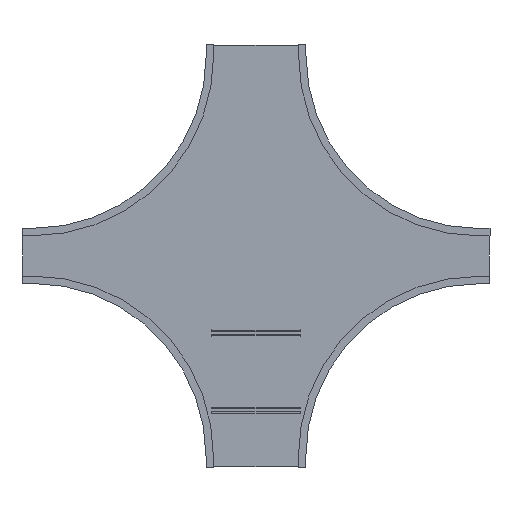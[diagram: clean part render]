
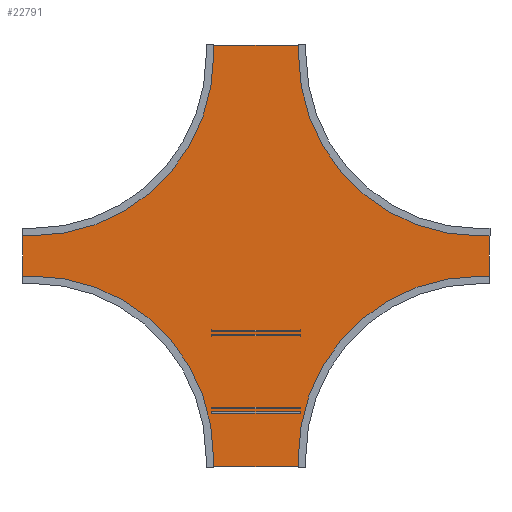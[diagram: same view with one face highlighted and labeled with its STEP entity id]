
A CAD part, front view. The second image highlights one B-rep face of the part: STEP entity #22791.
In plain terms, the highlighted planar face has unit normal (0, -1, 0).
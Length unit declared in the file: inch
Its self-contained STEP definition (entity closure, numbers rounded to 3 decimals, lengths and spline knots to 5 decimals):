
#22488=DIRECTION('',(0.,0.,1.));
#22489=VECTOR('',#22488,11.875);
#22490=CARTESIAN_POINT('',(-62.875,0.,-5.9375));
#22491=LINE('',#22490,#22489);
#22492=DIRECTION('',(1.,0.,0.));
#22493=VECTOR('',#22492,2.785);
#22494=CARTESIAN_POINT('',(-62.875,0.,5.9375));
#22495=LINE('',#22494,#22493);
#22496=CARTESIAN_POINT('',(-60.09,0.,54.09));
#22497=DIRECTION('',(0.,-1.,0.));
#22498=DIRECTION('',(0.,0.,-1.));
#22499=AXIS2_PLACEMENT_3D('',#22496,#22497,#22498);
#22501=DIRECTION('',(0.,0.,1.));
#22502=VECTOR('',#22501,2.785);
#22503=CARTESIAN_POINT('',(-11.9375,0.,54.09));
#22504=LINE('',#22503,#22502);
#22505=DIRECTION('',(1.,0.,0.));
#22506=VECTOR('',#22505,23.875);
#22507=CARTESIAN_POINT('',(-11.9375,0.,56.875));
#22508=LINE('',#22507,#22506);
#22509=DIRECTION('',(0.,0.,-1.));
#22510=VECTOR('',#22509,2.785);
#22511=CARTESIAN_POINT('',(11.9375,0.,56.875));
#22512=LINE('',#22511,#22510);
#22513=CARTESIAN_POINT('',(60.09,0.,54.09));
#22514=DIRECTION('',(0.,-1.,0.));
#22515=DIRECTION('',(-1.,0.,0.));
#22516=AXIS2_PLACEMENT_3D('',#22513,#22514,#22515);
#22518=DIRECTION('',(1.,0.,0.));
#22519=VECTOR('',#22518,2.785);
#22520=CARTESIAN_POINT('',(60.09,0.,5.9375));
#22521=LINE('',#22520,#22519);
#22522=DIRECTION('',(0.,0.,-1.));
#22523=VECTOR('',#22522,11.875);
#22524=CARTESIAN_POINT('',(62.875,0.,5.9375));
#22525=LINE('',#22524,#22523);
#22526=DIRECTION('',(-1.,0.,0.));
#22527=VECTOR('',#22526,2.785);
#22528=CARTESIAN_POINT('',(62.875,0.,-5.9375));
#22529=LINE('',#22528,#22527);
#22530=CARTESIAN_POINT('',(60.09,0.,-54.09));
#22531=DIRECTION('',(0.,-1.,0.));
#22532=DIRECTION('',(0.,0.,1.));
#22533=AXIS2_PLACEMENT_3D('',#22530,#22531,#22532);
#22535=DIRECTION('',(0.,0.,-1.));
#22536=VECTOR('',#22535,2.785);
#22537=CARTESIAN_POINT('',(11.9375,0.,-54.09));
#22538=LINE('',#22537,#22536);
#22539=DIRECTION('',(-1.,0.,0.));
#22540=VECTOR('',#22539,23.875);
#22541=CARTESIAN_POINT('',(11.9375,0.,-56.875));
#22542=LINE('',#22541,#22540);
#22543=DIRECTION('',(0.,0.,1.));
#22544=VECTOR('',#22543,2.785);
#22545=CARTESIAN_POINT('',(-11.9375,0.,-56.875));
#22546=LINE('',#22545,#22544);
#22547=CARTESIAN_POINT('',(-60.09,0.,-54.09));
#22548=DIRECTION('',(0.,-1.,0.));
#22549=DIRECTION('',(1.,0.,0.));
#22550=AXIS2_PLACEMENT_3D('',#22547,#22548,#22549);
#22552=DIRECTION('',(-1.,0.,0.));
#22553=VECTOR('',#22552,2.785);
#22554=CARTESIAN_POINT('',(-60.09,0.,-5.9375));
#22555=LINE('',#22554,#22553);
#22688=CARTESIAN_POINT('',(-62.875,0.,-5.9375));
#22689=CARTESIAN_POINT('',(-62.875,0.,5.9375));
#22690=VERTEX_POINT('',#22688);
#22691=VERTEX_POINT('',#22689);
#22692=CARTESIAN_POINT('',(-60.09,0.,5.9375));
#22693=VERTEX_POINT('',#22692);
#22694=CARTESIAN_POINT('',(-11.9375,0.,54.09));
#22695=VERTEX_POINT('',#22694);
#22696=CARTESIAN_POINT('',(-11.9375,0.,56.875));
#22697=VERTEX_POINT('',#22696);
#22698=CARTESIAN_POINT('',(11.9375,0.,56.875));
#22699=VERTEX_POINT('',#22698);
#22700=CARTESIAN_POINT('',(11.9375,0.,54.09));
#22701=VERTEX_POINT('',#22700);
#22702=CARTESIAN_POINT('',(60.09,0.,5.9375));
#22703=VERTEX_POINT('',#22702);
#22704=CARTESIAN_POINT('',(62.875,0.,5.9375));
#22705=VERTEX_POINT('',#22704);
#22706=CARTESIAN_POINT('',(62.875,0.,-5.9375));
#22707=VERTEX_POINT('',#22706);
#22708=CARTESIAN_POINT('',(60.09,0.,-5.9375));
#22709=VERTEX_POINT('',#22708);
#22710=CARTESIAN_POINT('',(11.9375,0.,-54.09));
#22711=VERTEX_POINT('',#22710);
#22712=CARTESIAN_POINT('',(11.9375,0.,-56.875));
#22713=VERTEX_POINT('',#22712);
#22714=CARTESIAN_POINT('',(-11.9375,0.,-56.875));
#22715=VERTEX_POINT('',#22714);
#22716=CARTESIAN_POINT('',(-11.9375,0.,-54.09));
#22717=VERTEX_POINT('',#22716);
#22718=CARTESIAN_POINT('',(-60.09,0.,-5.9375));
#22719=VERTEX_POINT('',#22718);
#22752=CARTESIAN_POINT('',(0.,0.,0.));
#22753=DIRECTION('',(0.,1.,0.));
#22754=DIRECTION('',(1.,0.,0.));
#22755=AXIS2_PLACEMENT_3D('',#22752,#22753,#22754);
#22756=PLANE('',#22755);
#22758=ORIENTED_EDGE('',*,*,#22757,.T.);
#22760=ORIENTED_EDGE('',*,*,#22759,.T.);
#22762=ORIENTED_EDGE('',*,*,#22761,.T.);
#22764=ORIENTED_EDGE('',*,*,#22763,.T.);
#22766=ORIENTED_EDGE('',*,*,#22765,.T.);
#22768=ORIENTED_EDGE('',*,*,#22767,.T.);
#22770=ORIENTED_EDGE('',*,*,#22769,.T.);
#22772=ORIENTED_EDGE('',*,*,#22771,.T.);
#22774=ORIENTED_EDGE('',*,*,#22773,.T.);
#22776=ORIENTED_EDGE('',*,*,#22775,.T.);
#22778=ORIENTED_EDGE('',*,*,#22777,.T.);
#22780=ORIENTED_EDGE('',*,*,#22779,.T.);
#22782=ORIENTED_EDGE('',*,*,#22781,.T.);
#22784=ORIENTED_EDGE('',*,*,#22783,.T.);
#22786=ORIENTED_EDGE('',*,*,#22785,.T.);
#22788=ORIENTED_EDGE('',*,*,#22787,.T.);
#22789=EDGE_LOOP('',(#22758,#22760,#22762,#22764,#22766,#22768,#22770,#22772,
#22774,#22776,#22778,#22780,#22782,#22784,#22786,#22788));
#22790=FACE_OUTER_BOUND('',#22789,.F.);
#22791=ADVANCED_FACE('',(#22790),#22756,.F.);
#22500=CIRCLE('',#22499,48.1525);
#22517=CIRCLE('',#22516,48.1525);
#22534=CIRCLE('',#22533,48.1525);
#22551=CIRCLE('',#22550,48.1525);
#22757=EDGE_CURVE('',#22690,#22691,#22491,.T.);
#22759=EDGE_CURVE('',#22691,#22693,#22495,.T.);
#22761=EDGE_CURVE('',#22693,#22695,#22500,.T.);
#22763=EDGE_CURVE('',#22695,#22697,#22504,.T.);
#22765=EDGE_CURVE('',#22697,#22699,#22508,.T.);
#22767=EDGE_CURVE('',#22699,#22701,#22512,.T.);
#22769=EDGE_CURVE('',#22701,#22703,#22517,.T.);
#22771=EDGE_CURVE('',#22703,#22705,#22521,.T.);
#22773=EDGE_CURVE('',#22705,#22707,#22525,.T.);
#22775=EDGE_CURVE('',#22707,#22709,#22529,.T.);
#22777=EDGE_CURVE('',#22709,#22711,#22534,.T.);
#22779=EDGE_CURVE('',#22711,#22713,#22538,.T.);
#22781=EDGE_CURVE('',#22713,#22715,#22542,.T.);
#22783=EDGE_CURVE('',#22715,#22717,#22546,.T.);
#22785=EDGE_CURVE('',#22717,#22719,#22551,.T.);
#22787=EDGE_CURVE('',#22719,#22690,#22555,.T.);
